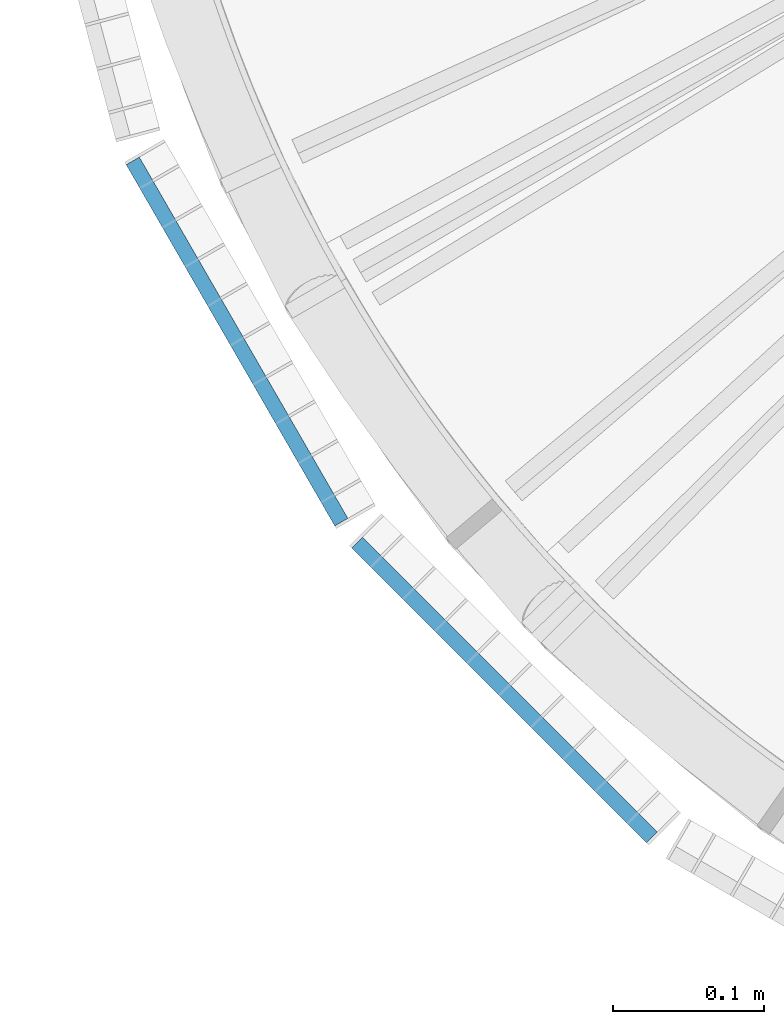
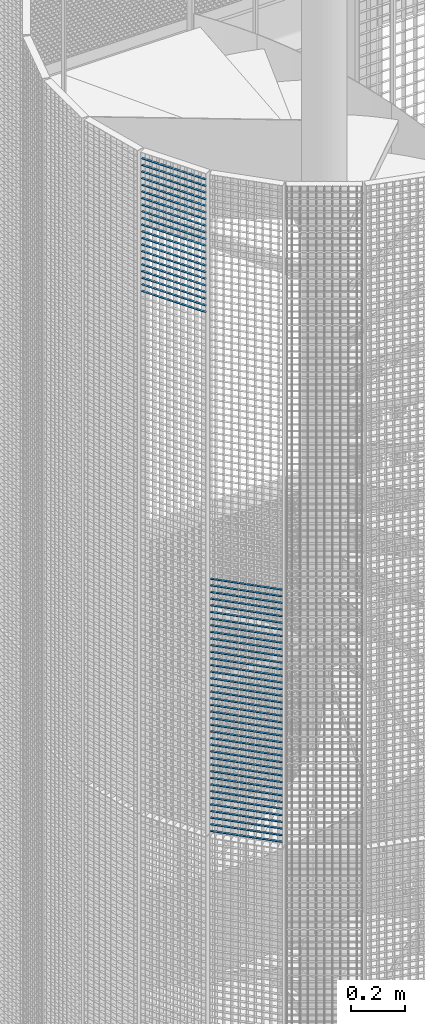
# One storey, part 104 of 1148: 60 beams, 2 elements without a shape of their own.
"""IFC2X3 building model written with IfcOpenShell, lengths in millimetres."""

from ifc_helpers import new_model, si_unit, frame, origin_with_axes, origin_2d_with_axis, place, context, subcontext, project, spatial, rectangle, extrude, material, type_object, element, aggregate, save


model = new_model("IFC2X3")

# Units and contexts
model_context = context("Model", 3, precision=1e-05, world=origin_with_axes())
body_context = subcontext(model_context, "Body", "Model", "MODEL_VIEW")
ifc_project = project(units=[si_unit("LENGTHUNIT", "METRE", prefix="MILLI"), si_unit("AREAUNIT", "SQUARE_METRE"), si_unit("VOLUMEUNIT", "CUBIC_METRE"), si_unit("MASSUNIT", "GRAM", prefix="KILO"), si_unit("TIMEUNIT", "SECOND"), si_unit("PLANEANGLEUNIT", "RADIAN"), si_unit("SOLIDANGLEUNIT", "STERADIAN"), si_unit("THERMODYNAMICTEMPERATUREUNIT", "DEGREE_CELSIUS"), si_unit("LUMINOUSINTENSITYUNIT", "LUMEN")], contexts=[model_context])

# Site, building, storey
site_placement = place(None, origin_with_axes())
site = spatial("IfcSite", under=ifc_project, at=site_placement, Name="Undefined", CompositionType="ELEMENT")
building_placement = place(site_placement, origin_with_axes())
building = spatial("IfcBuilding", under=site, at=building_placement, Name="Undefined", CompositionType="ELEMENT")
storey_placement = place(building_placement, origin_with_axes())
storey = spatial("IfcBuildingStorey", under=building, at=storey_placement, Name="Undefined", CompositionType="ELEMENT", Elevation=0.0)

# Assembly, beams
assembly_1_placement = place(storey_placement, origin_with_axes())
assembly_1 = element("IfcElementAssembly", 1, at=assembly_1_placement, inside=storey, Name="BORDURE", AssemblyPlace="NOTDEFINED", PredefinedType="NOTDEFINED")
ifc_material = material(Name="STEEL/S235JR")
beam_type = type_object("IfcBeamType", Name="PL2*10", PredefinedType="NOTDEFINED")
beam_1_placement = place(assembly_1_placement, frame((-884.927168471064, -689.771348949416, 16170.0), z_axis=(-0.70710678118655, -0.707106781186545, 0.0), x_axis=(0.707106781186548, -0.707106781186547, 0.0)))
beam_1 = element("IfcBeam", 2, at=beam_1_placement, type_object=beam_type, material=ifc_material, Name="ENTRETOISE", context=body_context, shape_type="SweptSolid", body=[
    extrude(rectangle(XDim=2.0, YDim=10.0, at=origin_2d_with_axis()), frame((275.999999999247, 9.09494701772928e-13, 1.53210777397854e-14), z_axis=(-1.0, 0.0, 0.0), x_axis=(0.0, -1.0, 0.0)), (0.0, 0.0, 1.0), 276.0),
])
beam_2_placement = place(assembly_1_placement, frame((-884.927168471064, -689.771348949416, 16140.0), z_axis=(-0.70710678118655, -0.707106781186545, 0.0), x_axis=(0.707106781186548, -0.707106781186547, 0.0)))
beam_2 = element("IfcBeam", 3, at=beam_2_placement, type_object=beam_type, material=ifc_material, Name="ENTRETOISE", context=body_context, shape_type="SweptSolid", body=[
    extrude(rectangle(XDim=2.0, YDim=10.0, at=origin_2d_with_axis()), frame((275.999999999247, 9.09494701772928e-13, 1.53210777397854e-14), z_axis=(-1.0, 0.0, 0.0), x_axis=(0.0, -1.0, 0.0)), (0.0, 0.0, 1.0), 276.0),
])
beam_3_placement = place(assembly_1_placement, frame((-884.927168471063, -689.771348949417, 15720.0), z_axis=(-0.70710678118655, -0.707106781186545, 0.0), x_axis=(0.707106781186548, -0.707106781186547, 0.0)))
beam_3 = element("IfcBeam", 4, at=beam_3_placement, type_object=beam_type, material=ifc_material, Name="ENTRETOISE", context=body_context, shape_type="SweptSolid", body=[
    extrude(rectangle(XDim=2.0, YDim=10.0, at=origin_2d_with_axis()), frame((275.999999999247, 9.09494701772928e-13, 1.53210777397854e-14), z_axis=(-1.0, 0.0, 0.0), x_axis=(0.0, -1.0, 0.0)), (0.0, 0.0, 1.0), 276.0),
])
beam_4_placement = place(assembly_1_placement, frame((-884.927168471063, -689.771348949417, 15690.0), z_axis=(-0.70710678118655, -0.707106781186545, 0.0), x_axis=(0.707106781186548, -0.707106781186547, 0.0)))
beam_4 = element("IfcBeam", 5, at=beam_4_placement, type_object=beam_type, material=ifc_material, Name="ENTRETOISE", context=body_context, shape_type="SweptSolid", body=[
    extrude(rectangle(XDim=2.0, YDim=10.0, at=origin_2d_with_axis()), frame((275.999999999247, 9.09494701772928e-13, 1.53210777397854e-14), z_axis=(-1.0, 0.0, 0.0), x_axis=(0.0, -1.0, 0.0)), (0.0, 0.0, 1.0), 276.0),
])
beam_5_placement = place(assembly_1_placement, frame((-884.927168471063, -689.771348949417, 15750.0), z_axis=(-0.70710678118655, -0.707106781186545, 0.0), x_axis=(0.707106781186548, -0.707106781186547, 0.0)))
beam_5 = element("IfcBeam", 6, at=beam_5_placement, type_object=beam_type, material=ifc_material, Name="ENTRETOISE", context=body_context, shape_type="SweptSolid", body=[
    extrude(rectangle(XDim=2.0, YDim=10.0, at=origin_2d_with_axis()), frame((275.999999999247, 9.09494701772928e-13, 1.53210777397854e-14), z_axis=(-1.0, 0.0, 0.0), x_axis=(0.0, -1.0, 0.0)), (0.0, 0.0, 1.0), 276.0),
])
beam_6_placement = place(assembly_1_placement, frame((-884.927168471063, -689.771348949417, 15660.0), z_axis=(-0.70710678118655, -0.707106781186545, 0.0), x_axis=(0.707106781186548, -0.707106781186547, 0.0)))
beam_6 = element("IfcBeam", 7, at=beam_6_placement, type_object=beam_type, material=ifc_material, Name="ENTRETOISE", context=body_context, shape_type="SweptSolid", body=[
    extrude(rectangle(XDim=2.0, YDim=10.0, at=origin_2d_with_axis()), frame((275.999999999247, 9.09494701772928e-13, 1.53210777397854e-14), z_axis=(-1.0, 0.0, 0.0), x_axis=(0.0, -1.0, 0.0)), (0.0, 0.0, 1.0), 276.0),
])
beam_7_placement = place(assembly_1_placement, frame((-884.927168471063, -689.771348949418, 15630.0), z_axis=(-0.70710678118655, -0.707106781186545, 0.0), x_axis=(0.707106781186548, -0.707106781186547, 0.0)))
beam_7 = element("IfcBeam", 8, at=beam_7_placement, type_object=beam_type, material=ifc_material, Name="ENTRETOISE", context=body_context, shape_type="SweptSolid", body=[
    extrude(rectangle(XDim=2.0, YDim=10.0, at=origin_2d_with_axis()), frame((275.999999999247, 9.09494701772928e-13, 1.53210777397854e-14), z_axis=(-1.0, 0.0, 0.0), x_axis=(0.0, -1.0, 0.0)), (0.0, 0.0, 1.0), 276.0),
])
beam_8_placement = place(assembly_1_placement, frame((-884.927168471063, -689.771348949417, 15780.0), z_axis=(-0.70710678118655, -0.707106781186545, 0.0), x_axis=(0.707106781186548, -0.707106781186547, 0.0)))
beam_8 = element("IfcBeam", 9, at=beam_8_placement, type_object=beam_type, material=ifc_material, Name="ENTRETOISE", context=body_context, shape_type="SweptSolid", body=[
    extrude(rectangle(XDim=2.0, YDim=10.0, at=origin_2d_with_axis()), frame((275.999999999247, 9.09494701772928e-13, 1.53210777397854e-14), z_axis=(-1.0, 0.0, 0.0), x_axis=(0.0, -1.0, 0.0)), (0.0, 0.0, 1.0), 276.0),
])
beam_9_placement = place(assembly_1_placement, frame((-884.927168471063, -689.771348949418, 15600.0), z_axis=(-0.70710678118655, -0.707106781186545, 0.0), x_axis=(0.707106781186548, -0.707106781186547, 0.0)))
beam_9 = element("IfcBeam", 10, at=beam_9_placement, type_object=beam_type, material=ifc_material, Name="ENTRETOISE", context=body_context, shape_type="SweptSolid", body=[
    extrude(rectangle(XDim=2.0, YDim=10.0, at=origin_2d_with_axis()), frame((275.999999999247, 9.09494701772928e-13, 1.53210777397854e-14), z_axis=(-1.0, 0.0, 0.0), x_axis=(0.0, -1.0, 0.0)), (0.0, 0.0, 1.0), 276.0),
])
beam_10_placement = place(assembly_1_placement, frame((-884.927168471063, -689.771348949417, 15810.0), z_axis=(-0.70710678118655, -0.707106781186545, 0.0), x_axis=(0.707106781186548, -0.707106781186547, 0.0)))
beam_10 = element("IfcBeam", 11, at=beam_10_placement, type_object=beam_type, material=ifc_material, Name="ENTRETOISE", context=body_context, shape_type="SweptSolid", body=[
    extrude(rectangle(XDim=2.0, YDim=10.0, at=origin_2d_with_axis()), frame((275.999999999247, 9.09494701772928e-13, 1.53210777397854e-14), z_axis=(-1.0, 0.0, 0.0), x_axis=(0.0, -1.0, 0.0)), (0.0, 0.0, 1.0), 276.0),
])
beam_11_placement = place(assembly_1_placement, frame((-884.927168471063, -689.771348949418, 15570.0), z_axis=(-0.70710678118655, -0.707106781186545, 0.0), x_axis=(0.707106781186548, -0.707106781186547, 0.0)))
beam_11 = element("IfcBeam", 12, at=beam_11_placement, type_object=beam_type, material=ifc_material, Name="ENTRETOISE", context=body_context, shape_type="SweptSolid", body=[
    extrude(rectangle(XDim=2.0, YDim=10.0, at=origin_2d_with_axis()), frame((275.999999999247, 9.09494701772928e-13, 1.53210777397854e-14), z_axis=(-1.0, 0.0, 0.0), x_axis=(0.0, -1.0, 0.0)), (0.0, 0.0, 1.0), 276.0),
])
beam_12_placement = place(assembly_1_placement, frame((-884.927168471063, -689.771348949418, 15540.0), z_axis=(-0.70710678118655, -0.707106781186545, 0.0), x_axis=(0.707106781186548, -0.707106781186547, 0.0)))
beam_12 = element("IfcBeam", 13, at=beam_12_placement, type_object=beam_type, material=ifc_material, Name="ENTRETOISE", context=body_context, shape_type="SweptSolid", body=[
    extrude(rectangle(XDim=2.0, YDim=10.0, at=origin_2d_with_axis()), frame((275.999999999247, 9.09494701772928e-13, 1.53210777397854e-14), z_axis=(-1.0, 0.0, 0.0), x_axis=(0.0, -1.0, 0.0)), (0.0, 0.0, 1.0), 276.0),
])
beam_13_placement = place(assembly_1_placement, frame((-884.927168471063, -689.771348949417, 15840.0), z_axis=(-0.70710678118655, -0.707106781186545, 0.0), x_axis=(0.707106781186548, -0.707106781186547, 0.0)))
beam_13 = element("IfcBeam", 14, at=beam_13_placement, type_object=beam_type, material=ifc_material, Name="ENTRETOISE", context=body_context, shape_type="SweptSolid", body=[
    extrude(rectangle(XDim=2.0, YDim=10.0, at=origin_2d_with_axis()), frame((275.999999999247, 9.09494701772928e-13, 1.53210777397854e-14), z_axis=(-1.0, 0.0, 0.0), x_axis=(0.0, -1.0, 0.0)), (0.0, 0.0, 1.0), 276.0),
])
beam_14_placement = place(assembly_1_placement, frame((-884.927168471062, -689.771348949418, 15510.0), z_axis=(-0.70710678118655, -0.707106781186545, 0.0), x_axis=(0.707106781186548, -0.707106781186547, 0.0)))
beam_14 = element("IfcBeam", 15, at=beam_14_placement, type_object=beam_type, material=ifc_material, Name="ENTRETOISE", context=body_context, shape_type="SweptSolid", body=[
    extrude(rectangle(XDim=2.0, YDim=10.0, at=origin_2d_with_axis()), frame((275.999999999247, 9.09494701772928e-13, 1.53210777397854e-14), z_axis=(-1.0, 0.0, 0.0), x_axis=(0.0, -1.0, 0.0)), (0.0, 0.0, 1.0), 276.0),
])
beam_15_placement = place(assembly_1_placement, frame((-884.927168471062, -689.771348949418, 15480.0), z_axis=(-0.70710678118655, -0.707106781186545, 0.0), x_axis=(0.707106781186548, -0.707106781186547, 0.0)))
beam_15 = element("IfcBeam", 16, at=beam_15_placement, type_object=beam_type, material=ifc_material, Name="ENTRETOISE", context=body_context, shape_type="SweptSolid", body=[
    extrude(rectangle(XDim=2.0, YDim=10.0, at=origin_2d_with_axis()), frame((275.999999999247, 9.09494701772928e-13, 1.53210777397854e-14), z_axis=(-1.0, 0.0, 0.0), x_axis=(0.0, -1.0, 0.0)), (0.0, 0.0, 1.0), 276.0),
])
beam_16_placement = place(assembly_1_placement, frame((-884.927168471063, -689.771348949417, 15870.0), z_axis=(-0.70710678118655, -0.707106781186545, 0.0), x_axis=(0.707106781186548, -0.707106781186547, 0.0)))
beam_16 = element("IfcBeam", 17, at=beam_16_placement, type_object=beam_type, material=ifc_material, Name="ENTRETOISE", context=body_context, shape_type="SweptSolid", body=[
    extrude(rectangle(XDim=2.0, YDim=10.0, at=origin_2d_with_axis()), frame((275.999999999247, 9.09494701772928e-13, 1.53210777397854e-14), z_axis=(-1.0, 0.0, 0.0), x_axis=(0.0, -1.0, 0.0)), (0.0, 0.0, 1.0), 276.0),
])
beam_17_placement = place(assembly_1_placement, frame((-884.927168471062, -689.771348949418, 15450.0), z_axis=(-0.70710678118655, -0.707106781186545, 0.0), x_axis=(0.707106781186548, -0.707106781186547, 0.0)))
beam_17 = element("IfcBeam", 18, at=beam_17_placement, type_object=beam_type, material=ifc_material, Name="ENTRETOISE", context=body_context, shape_type="SweptSolid", body=[
    extrude(rectangle(XDim=2.0, YDim=10.0, at=origin_2d_with_axis()), frame((275.999999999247, 9.09494701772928e-13, 1.53210777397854e-14), z_axis=(-1.0, 0.0, 0.0), x_axis=(0.0, -1.0, 0.0)), (0.0, 0.0, 1.0), 276.0),
])
beam_18_placement = place(assembly_1_placement, frame((-884.927168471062, -689.771348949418, 15420.0), z_axis=(-0.70710678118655, -0.707106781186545, 0.0), x_axis=(0.707106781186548, -0.707106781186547, 0.0)))
beam_18 = element("IfcBeam", 19, at=beam_18_placement, type_object=beam_type, material=ifc_material, Name="ENTRETOISE", context=body_context, shape_type="SweptSolid", body=[
    extrude(rectangle(XDim=2.0, YDim=10.0, at=origin_2d_with_axis()), frame((275.999999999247, 9.09494701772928e-13, 1.53210777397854e-14), z_axis=(-1.0, 0.0, 0.0), x_axis=(0.0, -1.0, 0.0)), (0.0, 0.0, 1.0), 276.0),
])
beam_19_placement = place(assembly_1_placement, frame((-884.927168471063, -689.771348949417, 15900.0), z_axis=(-0.70710678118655, -0.707106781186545, 0.0), x_axis=(0.707106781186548, -0.707106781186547, 0.0)))
beam_19 = element("IfcBeam", 20, at=beam_19_placement, type_object=beam_type, material=ifc_material, Name="ENTRETOISE", context=body_context, shape_type="SweptSolid", body=[
    extrude(rectangle(XDim=2.0, YDim=10.0, at=origin_2d_with_axis()), frame((275.999999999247, 9.09494701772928e-13, 1.53210777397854e-14), z_axis=(-1.0, 0.0, 0.0), x_axis=(0.0, -1.0, 0.0)), (0.0, 0.0, 1.0), 276.0),
])
beam_20_placement = place(assembly_1_placement, frame((-884.927168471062, -689.771348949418, 15390.0), z_axis=(-0.70710678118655, -0.707106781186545, 0.0), x_axis=(0.707106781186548, -0.707106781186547, 0.0)))
beam_20 = element("IfcBeam", 21, at=beam_20_placement, type_object=beam_type, material=ifc_material, Name="ENTRETOISE", context=body_context, shape_type="SweptSolid", body=[
    extrude(rectangle(XDim=2.0, YDim=10.0, at=origin_2d_with_axis()), frame((275.999999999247, 9.09494701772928e-13, 1.53210777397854e-14), z_axis=(-1.0, 0.0, 0.0), x_axis=(0.0, -1.0, 0.0)), (0.0, 0.0, 1.0), 276.0),
])
beam_21_placement = place(assembly_1_placement, frame((-884.927168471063, -689.771348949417, 15930.0), z_axis=(-0.70710678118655, -0.707106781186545, 0.0), x_axis=(0.707106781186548, -0.707106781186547, 0.0)))
beam_21 = element("IfcBeam", 22, at=beam_21_placement, type_object=beam_type, material=ifc_material, Name="ENTRETOISE", context=body_context, shape_type="SweptSolid", body=[
    extrude(rectangle(XDim=2.0, YDim=10.0, at=origin_2d_with_axis()), frame((275.999999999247, 9.09494701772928e-13, 1.53210777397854e-14), z_axis=(-1.0, 0.0, 0.0), x_axis=(0.0, -1.0, 0.0)), (0.0, 0.0, 1.0), 276.0),
])
beam_22_placement = place(assembly_1_placement, frame((-884.927168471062, -689.771348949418, 15360.0), z_axis=(-0.70710678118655, -0.707106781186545, 0.0), x_axis=(0.707106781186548, -0.707106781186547, 0.0)))
beam_22 = element("IfcBeam", 23, at=beam_22_placement, type_object=beam_type, material=ifc_material, Name="ENTRETOISE", context=body_context, shape_type="SweptSolid", body=[
    extrude(rectangle(XDim=2.0, YDim=10.0, at=origin_2d_with_axis()), frame((275.999999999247, 9.09494701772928e-13, 1.53210777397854e-14), z_axis=(-1.0, 0.0, 0.0), x_axis=(0.0, -1.0, 0.0)), (0.0, 0.0, 1.0), 276.0),
])
beam_23_placement = place(assembly_1_placement, frame((-884.927168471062, -689.771348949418, 15330.0), z_axis=(-0.70710678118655, -0.707106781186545, 0.0), x_axis=(0.707106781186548, -0.707106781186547, 0.0)))
beam_23 = element("IfcBeam", 24, at=beam_23_placement, type_object=beam_type, material=ifc_material, Name="ENTRETOISE", context=body_context, shape_type="SweptSolid", body=[
    extrude(rectangle(XDim=2.0, YDim=10.0, at=origin_2d_with_axis()), frame((275.999999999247, 9.09494701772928e-13, 1.53210777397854e-14), z_axis=(-1.0, 0.0, 0.0), x_axis=(0.0, -1.0, 0.0)), (0.0, 0.0, 1.0), 276.0),
])
beam_24_placement = place(assembly_1_placement, frame((-884.927168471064, -689.771348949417, 15960.0), z_axis=(-0.70710678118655, -0.707106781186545, 0.0), x_axis=(0.707106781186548, -0.707106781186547, 0.0)))
beam_24 = element("IfcBeam", 25, at=beam_24_placement, type_object=beam_type, material=ifc_material, Name="ENTRETOISE", context=body_context, shape_type="SweptSolid", body=[
    extrude(rectangle(XDim=2.0, YDim=10.0, at=origin_2d_with_axis()), frame((275.999999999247, 9.09494701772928e-13, 1.53210777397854e-14), z_axis=(-1.0, 0.0, 0.0), x_axis=(0.0, -1.0, 0.0)), (0.0, 0.0, 1.0), 276.0),
])
beam_25_placement = place(assembly_1_placement, frame((-884.927168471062, -689.771348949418, 15300.0), z_axis=(-0.70710678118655, -0.707106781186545, 0.0), x_axis=(0.707106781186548, -0.707106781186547, 0.0)))
beam_25 = element("IfcBeam", 26, at=beam_25_placement, type_object=beam_type, material=ifc_material, Name="ENTRETOISE", context=body_context, shape_type="SweptSolid", body=[
    extrude(rectangle(XDim=2.0, YDim=10.0, at=origin_2d_with_axis()), frame((275.999999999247, 9.09494701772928e-13, 1.53210777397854e-14), z_axis=(-1.0, 0.0, 0.0), x_axis=(0.0, -1.0, 0.0)), (0.0, 0.0, 1.0), 276.0),
])
beam_26_placement = place(assembly_1_placement, frame((-884.927168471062, -689.771348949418, 15270.0), z_axis=(-0.70710678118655, -0.707106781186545, 0.0), x_axis=(0.707106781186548, -0.707106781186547, 0.0)))
beam_26 = element("IfcBeam", 27, at=beam_26_placement, type_object=beam_type, material=ifc_material, Name="ENTRETOISE", context=body_context, shape_type="SweptSolid", body=[
    extrude(rectangle(XDim=2.0, YDim=10.0, at=origin_2d_with_axis()), frame((275.999999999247, 9.09494701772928e-13, 1.53210777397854e-14), z_axis=(-1.0, 0.0, 0.0), x_axis=(0.0, -1.0, 0.0)), (0.0, 0.0, 1.0), 276.0),
])
beam_27_placement = place(assembly_1_placement, frame((-884.927168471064, -689.771348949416, 15990.0), z_axis=(-0.70710678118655, -0.707106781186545, 0.0), x_axis=(0.707106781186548, -0.707106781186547, 0.0)))
beam_27 = element("IfcBeam", 28, at=beam_27_placement, type_object=beam_type, material=ifc_material, Name="ENTRETOISE", context=body_context, shape_type="SweptSolid", body=[
    extrude(rectangle(XDim=2.0, YDim=10.0, at=origin_2d_with_axis()), frame((275.999999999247, 9.09494701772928e-13, 1.53210777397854e-14), z_axis=(-1.0, 0.0, 0.0), x_axis=(0.0, -1.0, 0.0)), (0.0, 0.0, 1.0), 276.0),
])
beam_28_placement = place(assembly_1_placement, frame((-884.927168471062, -689.771348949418, 15240.0), z_axis=(-0.70710678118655, -0.707106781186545, 0.0), x_axis=(0.707106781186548, -0.707106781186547, 0.0)))
beam_28 = element("IfcBeam", 29, at=beam_28_placement, type_object=beam_type, material=ifc_material, Name="ENTRETOISE", context=body_context, shape_type="SweptSolid", body=[
    extrude(rectangle(XDim=2.0, YDim=10.0, at=origin_2d_with_axis()), frame((275.999999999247, 9.09494701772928e-13, 1.53210777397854e-14), z_axis=(-1.0, 0.0, 0.0), x_axis=(0.0, -1.0, 0.0)), (0.0, 0.0, 1.0), 276.0),
])
beam_29_placement = place(assembly_1_placement, frame((-884.927168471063, -689.771348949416, 16020.0), z_axis=(-0.70710678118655, -0.707106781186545, 0.0), x_axis=(0.707106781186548, -0.707106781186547, 0.0)))
beam_29 = element("IfcBeam", 30, at=beam_29_placement, type_object=beam_type, material=ifc_material, Name="ENTRETOISE", context=body_context, shape_type="SweptSolid", body=[
    extrude(rectangle(XDim=2.0, YDim=10.0, at=origin_2d_with_axis()), frame((275.999999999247, 9.09494701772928e-13, 1.53210777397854e-14), z_axis=(-1.0, 0.0, 0.0), x_axis=(0.0, -1.0, 0.0)), (0.0, 0.0, 1.0), 276.0),
])
beam_30_placement = place(assembly_1_placement, frame((-884.927168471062, -689.771348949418, 15210.0), z_axis=(-0.70710678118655, -0.707106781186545, 0.0), x_axis=(0.707106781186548, -0.707106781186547, 0.0)))
beam_30 = element("IfcBeam", 31, at=beam_30_placement, type_object=beam_type, material=ifc_material, Name="ENTRETOISE", context=body_context, shape_type="SweptSolid", body=[
    extrude(rectangle(XDim=2.0, YDim=10.0, at=origin_2d_with_axis()), frame((275.999999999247, 9.09494701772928e-13, 1.53210777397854e-14), z_axis=(-1.0, 0.0, 0.0), x_axis=(0.0, -1.0, 0.0)), (0.0, 0.0, 1.0), 276.0),
])
beam_31_placement = place(assembly_1_placement, frame((-884.927168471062, -689.771348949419, 15180.0), z_axis=(-0.70710678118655, -0.707106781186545, 0.0), x_axis=(0.707106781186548, -0.707106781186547, 0.0)))
beam_31 = element("IfcBeam", 32, at=beam_31_placement, type_object=beam_type, material=ifc_material, Name="ENTRETOISE", context=body_context, shape_type="SweptSolid", body=[
    extrude(rectangle(XDim=2.0, YDim=10.0, at=origin_2d_with_axis()), frame((275.999999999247, 9.09494701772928e-13, 1.53210777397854e-14), z_axis=(-1.0, 0.0, 0.0), x_axis=(0.0, -1.0, 0.0)), (0.0, 0.0, 1.0), 276.0),
])
beam_32_placement = place(assembly_1_placement, frame((-884.927168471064, -689.771348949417, 16050.0), z_axis=(-0.70710678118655, -0.707106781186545, 0.0), x_axis=(0.707106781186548, -0.707106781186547, 0.0)))
beam_32 = element("IfcBeam", 33, at=beam_32_placement, type_object=beam_type, material=ifc_material, Name="ENTRETOISE", context=body_context, shape_type="SweptSolid", body=[
    extrude(rectangle(XDim=2.0, YDim=10.0, at=origin_2d_with_axis()), frame((275.999999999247, 9.09494701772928e-13, 1.53210777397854e-14), z_axis=(-1.0, 0.0, 0.0), x_axis=(0.0, -1.0, 0.0)), (0.0, 0.0, 1.0), 276.0),
])
beam_33_placement = place(assembly_1_placement, frame((-884.927168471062, -689.771348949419, 15150.0), z_axis=(-0.70710678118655, -0.707106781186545, 0.0), x_axis=(0.707106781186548, -0.707106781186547, 0.0)))
beam_33 = element("IfcBeam", 34, at=beam_33_placement, type_object=beam_type, material=ifc_material, Name="ENTRETOISE", context=body_context, shape_type="SweptSolid", body=[
    extrude(rectangle(XDim=2.0, YDim=10.0, at=origin_2d_with_axis()), frame((275.999999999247, 9.09494701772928e-13, 1.53210777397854e-14), z_axis=(-1.0, 0.0, 0.0), x_axis=(0.0, -1.0, 0.0)), (0.0, 0.0, 1.0), 276.0),
])
beam_34_placement = place(assembly_1_placement, frame((-884.927168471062, -689.771348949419, 15120.0), z_axis=(-0.70710678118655, -0.707106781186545, 0.0), x_axis=(0.707106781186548, -0.707106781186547, 0.0)))
beam_34 = element("IfcBeam", 35, at=beam_34_placement, type_object=beam_type, material=ifc_material, Name="ENTRETOISE", context=body_context, shape_type="SweptSolid", body=[
    extrude(rectangle(XDim=2.0, YDim=10.0, at=origin_2d_with_axis()), frame((275.999999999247, 9.09494701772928e-13, 1.53210777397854e-14), z_axis=(-1.0, 0.0, 0.0), x_axis=(0.0, -1.0, 0.0)), (0.0, 0.0, 1.0), 276.0),
])
beam_35_placement = place(assembly_1_placement, frame((-884.927168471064, -689.771348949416, 16080.0), z_axis=(-0.70710678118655, -0.707106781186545, 0.0), x_axis=(0.707106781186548, -0.707106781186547, 0.0)))
beam_35 = element("IfcBeam", 36, at=beam_35_placement, type_object=beam_type, material=ifc_material, Name="ENTRETOISE", context=body_context, shape_type="SweptSolid", body=[
    extrude(rectangle(XDim=2.0, YDim=10.0, at=origin_2d_with_axis()), frame((275.999999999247, 9.09494701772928e-13, 1.53210777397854e-14), z_axis=(-1.0, 0.0, 0.0), x_axis=(0.0, -1.0, 0.0)), (0.0, 0.0, 1.0), 276.0),
])
beam_36_placement = place(assembly_1_placement, frame((-884.927168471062, -689.771348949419, 15090.0), z_axis=(-0.70710678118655, -0.707106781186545, 0.0), x_axis=(0.707106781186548, -0.707106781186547, 0.0)))
beam_36 = element("IfcBeam", 37, at=beam_36_placement, type_object=beam_type, material=ifc_material, Name="ENTRETOISE", context=body_context, shape_type="SweptSolid", body=[
    extrude(rectangle(XDim=2.0, YDim=10.0, at=origin_2d_with_axis()), frame((275.999999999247, 9.09494701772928e-13, 1.53210777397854e-14), z_axis=(-1.0, 0.0, 0.0), x_axis=(0.0, -1.0, 0.0)), (0.0, 0.0, 1.0), 276.0),
])
beam_37_placement = place(assembly_1_placement, frame((-884.927168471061, -689.771348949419, 15060.0), z_axis=(-0.70710678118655, -0.707106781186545, 0.0), x_axis=(0.707106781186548, -0.707106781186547, 0.0)))
beam_37 = element("IfcBeam", 38, at=beam_37_placement, type_object=beam_type, material=ifc_material, Name="ENTRETOISE", context=body_context, shape_type="SweptSolid", body=[
    extrude(rectangle(XDim=2.0, YDim=10.0, at=origin_2d_with_axis()), frame((275.999999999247, 9.09494701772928e-13, 1.53210777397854e-14), z_axis=(-1.0, 0.0, 0.0), x_axis=(0.0, -1.0, 0.0)), (0.0, 0.0, 1.0), 276.0),
])
beam_38_placement = place(assembly_1_placement, frame((-884.927168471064, -689.771348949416, 16110.0), z_axis=(-0.70710678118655, -0.707106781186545, 0.0), x_axis=(0.707106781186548, -0.707106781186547, 0.0)))
beam_38 = element("IfcBeam", 39, at=beam_38_placement, type_object=beam_type, material=ifc_material, Name="ENTRETOISE", context=body_context, shape_type="SweptSolid", body=[
    extrude(rectangle(XDim=2.0, YDim=10.0, at=origin_2d_with_axis()), frame((275.999999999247, 9.09494701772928e-13, 1.53210777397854e-14), z_axis=(-1.0, 0.0, 0.0), x_axis=(0.0, -1.0, 0.0)), (0.0, 0.0, 1.0), 276.0),
])
beam_39_placement = place(assembly_1_placement, frame((-884.92716847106, -689.771348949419, 15030.0), z_axis=(-0.70710678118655, -0.707106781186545, 0.0), x_axis=(0.707106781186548, -0.707106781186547, 0.0)))
beam_39 = element("IfcBeam", 40, at=beam_39_placement, type_object=beam_type, material=ifc_material, Name="ENTRETOISE", context=body_context, shape_type="SweptSolid", body=[
    extrude(rectangle(XDim=2.0, YDim=10.0, at=origin_2d_with_axis()), frame((275.999999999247, 9.09494701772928e-13, 1.53210777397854e-14), z_axis=(-1.0, 0.0, 0.0), x_axis=(0.0, -1.0, 0.0)), (0.0, 0.0, 1.0), 276.0),
])
aggregate(assembly_1, [beam_1, beam_2, beam_3, beam_4, beam_5, beam_6, beam_7, beam_8, beam_9, beam_10, beam_11, beam_12, beam_13, beam_14, beam_15, beam_16, beam_17, beam_18, beam_19, beam_20, beam_21, beam_22, beam_23, beam_24, beam_25, beam_26, beam_27, beam_28, beam_29, beam_30, beam_31, beam_32, beam_33, beam_34, beam_35, beam_36, beam_37, beam_38, beam_39])

assembly_2_placement = place(storey_placement, origin_with_axes())
assembly_2 = element("IfcElementAssembly", 41, at=assembly_2_placement, inside=storey, Name="BORDURE", AssemblyPlace="NOTDEFINED", PredefinedType="NOTDEFINED")
beam_40_placement = place(assembly_2_placement, frame((-1033.29996828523, -437.231955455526, 17970.0), z_axis=(-0.866025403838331, -0.499999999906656, 0.0), x_axis=(0.499999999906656, -0.866025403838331, 0.0)))
beam_40 = element("IfcBeam", 42, at=beam_40_placement, type_object=beam_type, material=ifc_material, Name="ENTRETOISE", context=body_context, shape_type="SweptSolid", body=[
    extrude(rectangle(XDim=2.0, YDim=10.0, at=origin_2d_with_axis()), frame((275.999999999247, 9.09494701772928e-13, 1.53210777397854e-14), z_axis=(-1.0, 0.0, 0.0), x_axis=(0.0, -1.0, 0.0)), (0.0, 0.0, 1.0), 276.0),
])
beam_41_placement = place(assembly_2_placement, frame((-1033.29996828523, -437.231955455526, 17940.0), z_axis=(-0.866025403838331, -0.499999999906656, 0.0), x_axis=(0.499999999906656, -0.866025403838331, 0.0)))
beam_41 = element("IfcBeam", 43, at=beam_41_placement, type_object=beam_type, material=ifc_material, Name="ENTRETOISE", context=body_context, shape_type="SweptSolid", body=[
    extrude(rectangle(XDim=2.0, YDim=10.0, at=origin_2d_with_axis()), frame((275.999999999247, 9.09494701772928e-13, 1.53210777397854e-14), z_axis=(-1.0, 0.0, 0.0), x_axis=(0.0, -1.0, 0.0)), (0.0, 0.0, 1.0), 276.0),
])
beam_42_placement = place(assembly_2_placement, frame((-1033.29996828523, -437.231955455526, 17910.0), z_axis=(-0.866025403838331, -0.499999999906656, 0.0), x_axis=(0.499999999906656, -0.866025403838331, 0.0)))
beam_42 = element("IfcBeam", 44, at=beam_42_placement, type_object=beam_type, material=ifc_material, Name="ENTRETOISE", context=body_context, shape_type="SweptSolid", body=[
    extrude(rectangle(XDim=2.0, YDim=10.0, at=origin_2d_with_axis()), frame((275.999999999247, 9.09494701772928e-13, 1.53210777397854e-14), z_axis=(-1.0, 0.0, 0.0), x_axis=(0.0, -1.0, 0.0)), (0.0, 0.0, 1.0), 276.0),
])
beam_43_placement = place(assembly_2_placement, frame((-1033.29996828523, -437.231955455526, 17880.0), z_axis=(-0.866025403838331, -0.499999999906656, 0.0), x_axis=(0.499999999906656, -0.866025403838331, 0.0)))
beam_43 = element("IfcBeam", 45, at=beam_43_placement, type_object=beam_type, material=ifc_material, Name="ENTRETOISE", context=body_context, shape_type="SweptSolid", body=[
    extrude(rectangle(XDim=2.0, YDim=10.0, at=origin_2d_with_axis()), frame((275.999999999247, 9.09494701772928e-13, 1.53210777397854e-14), z_axis=(-1.0, 0.0, 0.0), x_axis=(0.0, -1.0, 0.0)), (0.0, 0.0, 1.0), 276.0),
])
beam_44_placement = place(assembly_2_placement, frame((-1033.29996828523, -437.231955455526, 17850.0), z_axis=(-0.866025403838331, -0.499999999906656, 0.0), x_axis=(0.499999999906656, -0.866025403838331, 0.0)))
beam_44 = element("IfcBeam", 46, at=beam_44_placement, type_object=beam_type, material=ifc_material, Name="ENTRETOISE", context=body_context, shape_type="SweptSolid", body=[
    extrude(rectangle(XDim=2.0, YDim=10.0, at=origin_2d_with_axis()), frame((275.999999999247, 9.09494701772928e-13, 1.53210777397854e-14), z_axis=(-1.0, 0.0, 0.0), x_axis=(0.0, -1.0, 0.0)), (0.0, 0.0, 1.0), 276.0),
])
beam_45_placement = place(assembly_2_placement, frame((-1033.29996828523, -437.231955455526, 17820.0), z_axis=(-0.866025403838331, -0.499999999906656, 0.0), x_axis=(0.499999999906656, -0.866025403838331, 0.0)))
beam_45 = element("IfcBeam", 47, at=beam_45_placement, type_object=beam_type, material=ifc_material, Name="ENTRETOISE", context=body_context, shape_type="SweptSolid", body=[
    extrude(rectangle(XDim=2.0, YDim=10.0, at=origin_2d_with_axis()), frame((275.999999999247, 9.09494701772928e-13, 1.53210777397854e-14), z_axis=(-1.0, 0.0, 0.0), x_axis=(0.0, -1.0, 0.0)), (0.0, 0.0, 1.0), 276.0),
])
beam_46_placement = place(assembly_2_placement, frame((-1033.29996828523, -437.231955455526, 17790.0), z_axis=(-0.866025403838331, -0.499999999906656, 0.0), x_axis=(0.499999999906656, -0.866025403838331, 0.0)))
beam_46 = element("IfcBeam", 48, at=beam_46_placement, type_object=beam_type, material=ifc_material, Name="ENTRETOISE", context=body_context, shape_type="SweptSolid", body=[
    extrude(rectangle(XDim=2.0, YDim=10.0, at=origin_2d_with_axis()), frame((275.999999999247, 9.09494701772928e-13, 1.53210777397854e-14), z_axis=(-1.0, 0.0, 0.0), x_axis=(0.0, -1.0, 0.0)), (0.0, 0.0, 1.0), 276.0),
])
beam_47_placement = place(assembly_2_placement, frame((-1033.29996828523, -437.231955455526, 17760.0), z_axis=(-0.866025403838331, -0.499999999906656, 0.0), x_axis=(0.499999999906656, -0.866025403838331, 0.0)))
beam_47 = element("IfcBeam", 49, at=beam_47_placement, type_object=beam_type, material=ifc_material, Name="ENTRETOISE", context=body_context, shape_type="SweptSolid", body=[
    extrude(rectangle(XDim=2.0, YDim=10.0, at=origin_2d_with_axis()), frame((275.999999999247, 9.09494701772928e-13, 1.53210777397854e-14), z_axis=(-1.0, 0.0, 0.0), x_axis=(0.0, -1.0, 0.0)), (0.0, 0.0, 1.0), 276.0),
])
beam_48_placement = place(assembly_2_placement, frame((-1033.29996828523, -437.231955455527, 17730.0), z_axis=(-0.866025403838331, -0.499999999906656, 0.0), x_axis=(0.499999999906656, -0.866025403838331, 0.0)))
beam_48 = element("IfcBeam", 50, at=beam_48_placement, type_object=beam_type, material=ifc_material, Name="ENTRETOISE", context=body_context, shape_type="SweptSolid", body=[
    extrude(rectangle(XDim=2.0, YDim=10.0, at=origin_2d_with_axis()), frame((275.999999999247, 9.09494701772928e-13, 1.53210777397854e-14), z_axis=(-1.0, 0.0, 0.0), x_axis=(0.0, -1.0, 0.0)), (0.0, 0.0, 1.0), 276.0),
])
beam_49_placement = place(assembly_2_placement, frame((-1033.29996828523, -437.231955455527, 17700.0), z_axis=(-0.866025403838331, -0.499999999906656, 0.0), x_axis=(0.499999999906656, -0.866025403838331, 0.0)))
beam_49 = element("IfcBeam", 51, at=beam_49_placement, type_object=beam_type, material=ifc_material, Name="ENTRETOISE", context=body_context, shape_type="SweptSolid", body=[
    extrude(rectangle(XDim=2.0, YDim=10.0, at=origin_2d_with_axis()), frame((275.999999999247, 9.09494701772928e-13, 1.53210777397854e-14), z_axis=(-1.0, 0.0, 0.0), x_axis=(0.0, -1.0, 0.0)), (0.0, 0.0, 1.0), 276.0),
])
beam_50_placement = place(assembly_2_placement, frame((-1033.29996828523, -437.231955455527, 17670.0), z_axis=(-0.866025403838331, -0.499999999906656, 0.0), x_axis=(0.499999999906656, -0.866025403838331, 0.0)))
beam_50 = element("IfcBeam", 52, at=beam_50_placement, type_object=beam_type, material=ifc_material, Name="ENTRETOISE", context=body_context, shape_type="SweptSolid", body=[
    extrude(rectangle(XDim=2.0, YDim=10.0, at=origin_2d_with_axis()), frame((275.999999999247, 9.09494701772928e-13, 1.53210777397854e-14), z_axis=(-1.0, 0.0, 0.0), x_axis=(0.0, -1.0, 0.0)), (0.0, 0.0, 1.0), 276.0),
])
beam_51_placement = place(assembly_2_placement, frame((-1033.29996828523, -437.231955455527, 17640.0), z_axis=(-0.866025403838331, -0.499999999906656, 0.0), x_axis=(0.499999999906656, -0.866025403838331, 0.0)))
beam_51 = element("IfcBeam", 53, at=beam_51_placement, type_object=beam_type, material=ifc_material, Name="ENTRETOISE", context=body_context, shape_type="SweptSolid", body=[
    extrude(rectangle(XDim=2.0, YDim=10.0, at=origin_2d_with_axis()), frame((275.999999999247, 9.09494701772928e-13, 1.53210777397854e-14), z_axis=(-1.0, 0.0, 0.0), x_axis=(0.0, -1.0, 0.0)), (0.0, 0.0, 1.0), 276.0),
])
beam_52_placement = place(assembly_2_placement, frame((-1033.29996828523, -437.231955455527, 17610.0), z_axis=(-0.866025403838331, -0.499999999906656, 0.0), x_axis=(0.499999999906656, -0.866025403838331, 0.0)))
beam_52 = element("IfcBeam", 54, at=beam_52_placement, type_object=beam_type, material=ifc_material, Name="ENTRETOISE", context=body_context, shape_type="SweptSolid", body=[
    extrude(rectangle(XDim=2.0, YDim=10.0, at=origin_2d_with_axis()), frame((275.999999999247, 9.09494701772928e-13, 1.53210777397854e-14), z_axis=(-1.0, 0.0, 0.0), x_axis=(0.0, -1.0, 0.0)), (0.0, 0.0, 1.0), 276.0),
])
beam_53_placement = place(assembly_2_placement, frame((-1033.29996828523, -437.231955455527, 17580.0), z_axis=(-0.866025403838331, -0.499999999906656, 0.0), x_axis=(0.499999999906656, -0.866025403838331, 0.0)))
beam_53 = element("IfcBeam", 55, at=beam_53_placement, type_object=beam_type, material=ifc_material, Name="ENTRETOISE", context=body_context, shape_type="SweptSolid", body=[
    extrude(rectangle(XDim=2.0, YDim=10.0, at=origin_2d_with_axis()), frame((275.999999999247, 9.09494701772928e-13, 1.53210777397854e-14), z_axis=(-1.0, 0.0, 0.0), x_axis=(0.0, -1.0, 0.0)), (0.0, 0.0, 1.0), 276.0),
])
beam_54_placement = place(assembly_2_placement, frame((-1033.29996828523, -437.231955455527, 17550.0), z_axis=(-0.866025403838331, -0.499999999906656, 0.0), x_axis=(0.499999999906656, -0.866025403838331, 0.0)))
beam_54 = element("IfcBeam", 56, at=beam_54_placement, type_object=beam_type, material=ifc_material, Name="ENTRETOISE", context=body_context, shape_type="SweptSolid", body=[
    extrude(rectangle(XDim=2.0, YDim=10.0, at=origin_2d_with_axis()), frame((275.999999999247, 9.09494701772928e-13, 1.53210777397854e-14), z_axis=(-1.0, 0.0, 0.0), x_axis=(0.0, -1.0, 0.0)), (0.0, 0.0, 1.0), 276.0),
])
beam_55_placement = place(assembly_2_placement, frame((-1033.29996828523, -437.231955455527, 17520.0), z_axis=(-0.866025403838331, -0.499999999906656, 0.0), x_axis=(0.499999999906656, -0.866025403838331, 0.0)))
beam_55 = element("IfcBeam", 57, at=beam_55_placement, type_object=beam_type, material=ifc_material, Name="ENTRETOISE", context=body_context, shape_type="SweptSolid", body=[
    extrude(rectangle(XDim=2.0, YDim=10.0, at=origin_2d_with_axis()), frame((275.999999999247, 9.09494701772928e-13, 1.53210777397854e-14), z_axis=(-1.0, 0.0, 0.0), x_axis=(0.0, -1.0, 0.0)), (0.0, 0.0, 1.0), 276.0),
])
beam_56_placement = place(assembly_2_placement, frame((-1033.29996828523, -437.231955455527, 17490.0), z_axis=(-0.866025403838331, -0.499999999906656, 0.0), x_axis=(0.499999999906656, -0.866025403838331, 0.0)))
beam_56 = element("IfcBeam", 58, at=beam_56_placement, type_object=beam_type, material=ifc_material, Name="ENTRETOISE", context=body_context, shape_type="SweptSolid", body=[
    extrude(rectangle(XDim=2.0, YDim=10.0, at=origin_2d_with_axis()), frame((275.999999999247, 9.09494701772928e-13, 1.53210777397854e-14), z_axis=(-1.0, 0.0, 0.0), x_axis=(0.0, -1.0, 0.0)), (0.0, 0.0, 1.0), 276.0),
])
beam_57_placement = place(assembly_2_placement, frame((-1033.29996828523, -437.231955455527, 17460.0), z_axis=(-0.866025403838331, -0.499999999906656, 0.0), x_axis=(0.499999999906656, -0.866025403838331, 0.0)))
beam_57 = element("IfcBeam", 59, at=beam_57_placement, type_object=beam_type, material=ifc_material, Name="ENTRETOISE", context=body_context, shape_type="SweptSolid", body=[
    extrude(rectangle(XDim=2.0, YDim=10.0, at=origin_2d_with_axis()), frame((275.999999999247, 9.09494701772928e-13, 1.53210777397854e-14), z_axis=(-1.0, 0.0, 0.0), x_axis=(0.0, -1.0, 0.0)), (0.0, 0.0, 1.0), 276.0),
])
beam_58_placement = place(assembly_2_placement, frame((-1033.29996828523, -437.231955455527, 17430.0), z_axis=(-0.866025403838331, -0.499999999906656, 0.0), x_axis=(0.499999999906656, -0.866025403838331, 0.0)))
beam_58 = element("IfcBeam", 60, at=beam_58_placement, type_object=beam_type, material=ifc_material, Name="ENTRETOISE", context=body_context, shape_type="SweptSolid", body=[
    extrude(rectangle(XDim=2.0, YDim=10.0, at=origin_2d_with_axis()), frame((275.999999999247, 9.09494701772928e-13, 1.53210777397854e-14), z_axis=(-1.0, 0.0, 0.0), x_axis=(0.0, -1.0, 0.0)), (0.0, 0.0, 1.0), 276.0),
])
beam_59_placement = place(assembly_2_placement, frame((-1033.29996828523, -437.231955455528, 17400.0), z_axis=(-0.866025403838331, -0.499999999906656, 0.0), x_axis=(0.499999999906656, -0.866025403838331, 0.0)))
beam_59 = element("IfcBeam", 61, at=beam_59_placement, type_object=beam_type, material=ifc_material, Name="ENTRETOISE", context=body_context, shape_type="SweptSolid", body=[
    extrude(rectangle(XDim=2.0, YDim=10.0, at=origin_2d_with_axis()), frame((275.999999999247, 9.09494701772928e-13, 1.53210777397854e-14), z_axis=(-1.0, 0.0, 0.0), x_axis=(0.0, -1.0, 0.0)), (0.0, 0.0, 1.0), 276.0),
])
beam_60_placement = place(assembly_2_placement, frame((-1033.29996828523, -437.231955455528, 17370.0), z_axis=(-0.866025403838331, -0.499999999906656, 0.0), x_axis=(0.499999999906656, -0.866025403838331, 0.0)))
beam_60 = element("IfcBeam", 62, at=beam_60_placement, type_object=beam_type, material=ifc_material, Name="ENTRETOISE", context=body_context, shape_type="SweptSolid", body=[
    extrude(rectangle(XDim=2.0, YDim=10.0, at=origin_2d_with_axis()), frame((275.999999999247, 9.09494701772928e-13, 1.53210777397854e-14), z_axis=(-1.0, 0.0, 0.0), x_axis=(0.0, -1.0, 0.0)), (0.0, 0.0, 1.0), 276.0),
])
aggregate(assembly_2, [beam_40, beam_41, beam_42, beam_43, beam_44, beam_45, beam_46, beam_47, beam_48, beam_49, beam_50, beam_51, beam_52, beam_53, beam_54, beam_55, beam_56, beam_57, beam_58, beam_59, beam_60])

save(model, "model.ifc")
